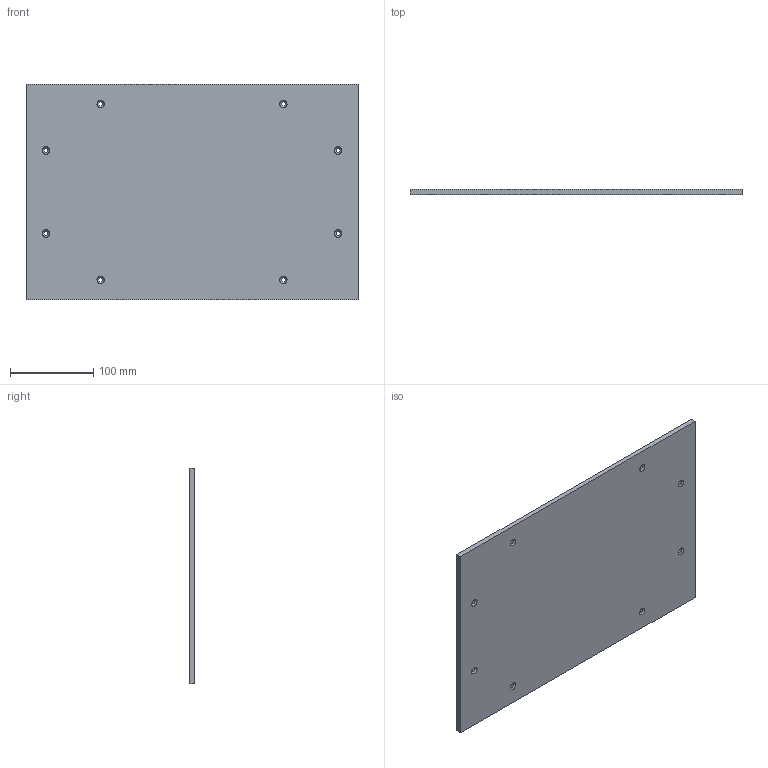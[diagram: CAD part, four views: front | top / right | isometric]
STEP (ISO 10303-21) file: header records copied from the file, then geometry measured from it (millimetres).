
FILE_DESCRIPTION (( 'STEP AP203' ), '1' );
FILE_NAME ('Base_Porte_Dessus.STEP', '2026-06-24T07:29:49', ( '' ), ( '' ), 'SwSTEP 2.0', 'SolidWorks 2024', '' );
FILE_SCHEMA (( 'CONFIG_CONTROL_DESIGN' ));
Length unit declared in the file: millimetre
Products named in the file (1): Base_Porte_Dessus_Bas
Bounding box: 400 x 6 x 260 mm (x, y, z)
Volume: 622739.2 mm3; surface area: 216254.2 mm2
Topology: 1 solids, 1 shells, 22 faces, 52 edges, 32 vertices
Faces by surface type: cylinder 8, cone 8, plane 6
Full cylindrical faces by diameter (mm): 5 x8
Entity records: 663 total; most frequent: DIRECTION 106, CARTESIAN_POINT 91, ORIENTED_EDGE 72, EDGE_LOOP 54, AXIS2_PLACEMENT_3D 47, EDGE_CURVE 36, VERTEX_POINT 32, FACE_OUTER_BOUND 30
